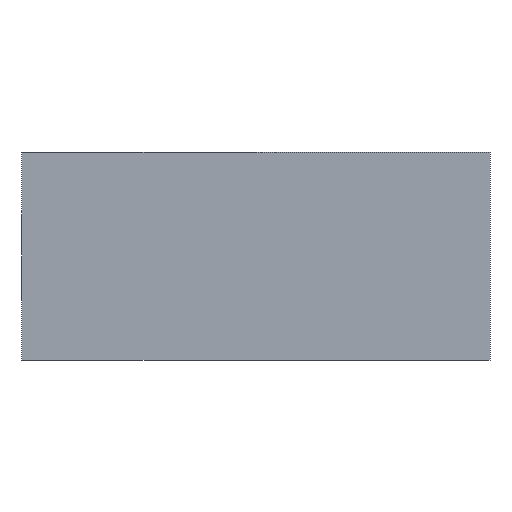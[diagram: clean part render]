
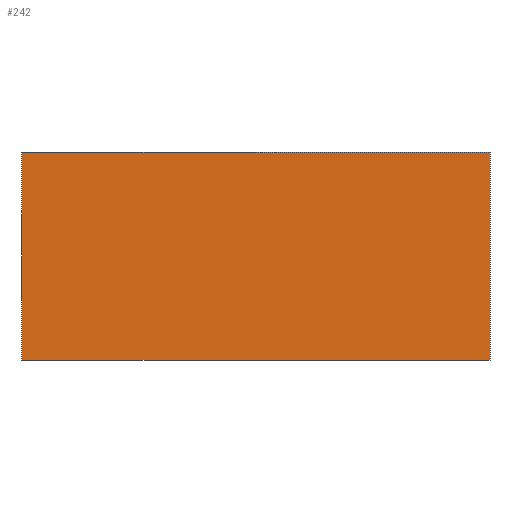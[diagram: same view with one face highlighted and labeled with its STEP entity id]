
A CAD part, front view. The second image highlights one B-rep face of the part: STEP entity #242.
In plain terms, the highlighted planar face has unit normal (0, -1, 0).
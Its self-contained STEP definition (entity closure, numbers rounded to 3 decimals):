
#32=PLANE('',#268);
#44=FACE_OUTER_BOUND('',#60,.T.);
#60=EDGE_LOOP('',(#199,#200,#201,#202));
#80=LINE('',#384,#99);
#83=LINE('',#389,#102);
#84=LINE('',#392,#103);
#85=LINE('',#393,#104);
#99=VECTOR('',#317,45.);
#102=VECTOR('',#322,20.);
#103=VECTOR('',#325,45.);
#104=VECTOR('',#326,20.);
#136=VERTEX_POINT('',#381);
#137=VERTEX_POINT('',#383);
#138=VERTEX_POINT('',#387);
#139=VERTEX_POINT('',#391);
#160=EDGE_CURVE('',#137,#136,#80,.T.);
#163=EDGE_CURVE('',#136,#138,#83,.T.);
#164=EDGE_CURVE('',#138,#139,#84,.T.);
#165=EDGE_CURVE('',#137,#139,#85,.T.);
#199=ORIENTED_EDGE('',*,*,#164,.T.);
#200=ORIENTED_EDGE('',*,*,#165,.F.);
#201=ORIENTED_EDGE('',*,*,#160,.T.);
#202=ORIENTED_EDGE('',*,*,#163,.T.);
#242=ADVANCED_FACE('',(#44),#32,.T.);
#268=AXIS2_PLACEMENT_3D('',#390,#323,#324);
#317=DIRECTION('',(1.,0.,0.));
#322=DIRECTION('',(0.,0.,1.));
#323=DIRECTION('center_axis',(0.,-1.,0.));
#324=DIRECTION('ref_axis',(0.,0.,-1.));
#325=DIRECTION('',(-1.,0.,0.));
#326=DIRECTION('',(0.,0.,1.));
#381=CARTESIAN_POINT('',(30.,-25.,-10.));
#383=CARTESIAN_POINT('',(-15.,-25.,-10.));
#384=CARTESIAN_POINT('',(-15.,-25.,-10.));
#387=CARTESIAN_POINT('',(30.,-25.,10.));
#389=CARTESIAN_POINT('',(30.,-25.,0.));
#390=CARTESIAN_POINT('Origin',(30.,-25.,0.));
#391=CARTESIAN_POINT('',(-15.,-25.,10.));
#392=CARTESIAN_POINT('',(-15.,-25.,10.));
#393=CARTESIAN_POINT('',(-15.,-25.,0.));
